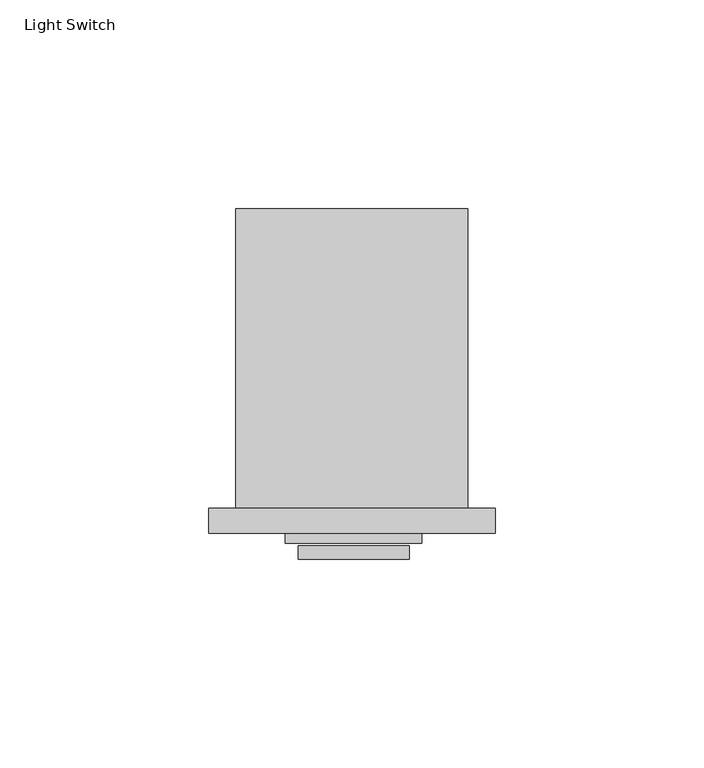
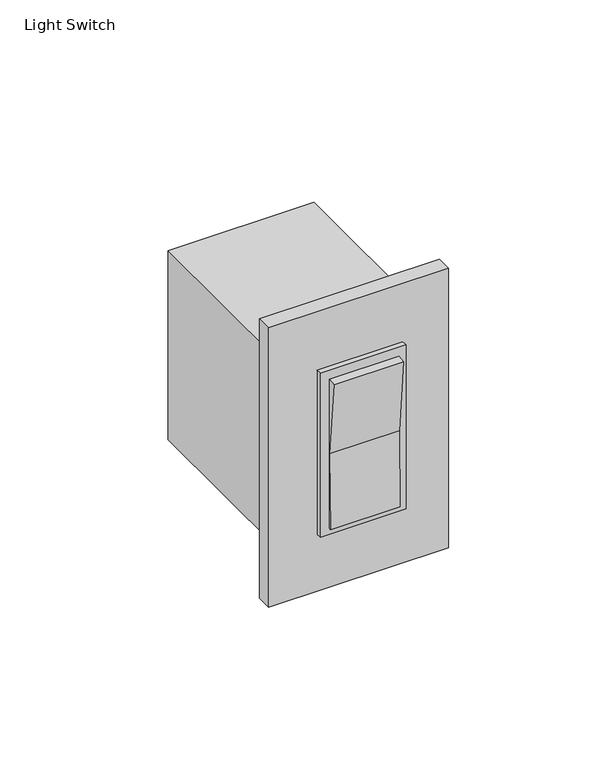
"""IFC4 building model written with IfcOpenShell, lengths in millimetres: proxy geometry, Electrical-Teknion-ELSFH-Light_Switch-R2021 : Light Switch."""

from ifc_helpers import new_model, si_unit, frame, origin, place, context, project, spatial, polyline, outline, extrude, source, transform, mapped, element, save


def light_switch_10e7e5e8(model_context):
    return source(origin(), model_context, "Body", "SweptSolid", [
        extrude(outline(polyline([(-6.5024, 0.0), (62.0522, 0.0), (62.0522, -5.8928), (-6.5024, -5.8928), (-6.5024, 0.0)])), frame((0.0, 0.0, 324.612), z_axis=(0.0, 0.0, 1.0), x_axis=(1.0, 0.0, 0.0)), (0.0, 0.0, 1.0), 112.776),
        extrude(outline(polyline([(55.5498, 0.0), (0.0, 0.0), (0.0, 71.7296), (55.5498, 71.7296), (55.5498, 0.0)])), frame((0.0, 0.0, 342.9), z_axis=(0.0, 0.0, 1.0), x_axis=(1.0, 0.0, 0.0)), (0.0, 0.0, 1.0), 76.2),
        extrude(outline(polyline([(-12.1399022, 410.680477), (-8.9646147, 410.9690062), (-8.9646147, 350.7713635), (-9.7583815, 350.7797304), (-9.2208672, 381.0), (-12.1399022, 410.680477)])), frame((14.8985581, 0.0, 0.0), z_axis=(1.0, 0.0, 0.0), x_axis=(0.0, 1.0, 0.0)), (0.0, 0.0, 1.0), 26.5343256),
        extrude(outline(polyline([(0.0, -32.6355666), (0.0, 0.0), (2.4765022, 0.0), (2.4765022, -32.6355666), (0.0, -32.6355666)])), frame((11.8000153, -8.3693022, 347.9297671), z_axis=(2.0889474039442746e-08, 0.0, 0.9999999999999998), x_axis=(0.0, 1.0, 0.0)), (0.0, 0.0, 1.0), 66.1134433),
    ])


if __name__ == "__main__":
    model = new_model("IFC4")
    model_context = context("Model", 3, world=origin())
    ifc_project = project(units=[si_unit("LENGTHUNIT", "METRE", prefix="MILLI")], contexts=[model_context])
    site = spatial("IfcSite", under=ifc_project)
    building = spatial("IfcBuilding", under=site)
    placement = place(None, origin())
    light_switch_shape = light_switch_10e7e5e8(model_context)
    element("IfcBuildingElementProxy", 1, Name="Electrical-Teknion-ELSFH-Light_Switch-R2021 : Light Switch", ObjectType="Electrical-Teknion-ELSFH-Light_Switch-R2021 : Light Switch", at=placement, inside=building, context=model_context, shape_type="MappedRepresentation", body=[
        mapped(light_switch_shape, transform((0.0, 0.0, 0.0), x_axis=(1.0, 0.0, 0.0), y_axis=(0.0, 1.0, 0.0), z_axis=(0.0, 0.0, 1.0))),
    ])
    save(model, "model.ifc")
